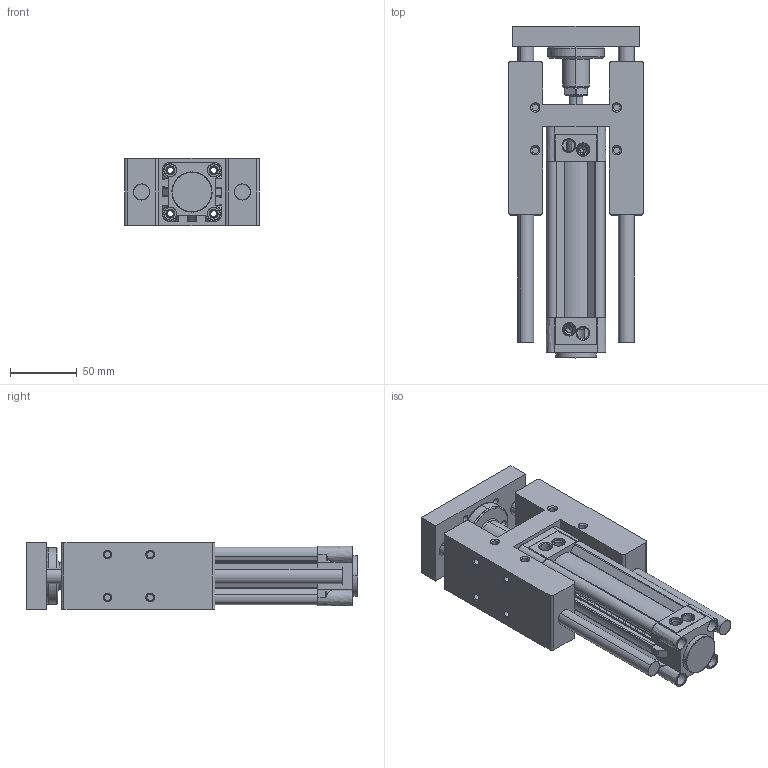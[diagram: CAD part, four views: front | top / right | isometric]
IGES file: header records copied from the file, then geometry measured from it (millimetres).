
Start section: SolidWorks IGES file using analytic representation for surfaces
Global section: file name: D:\ARICA 3D 禽Z軲LER\3D IGES\DNC-H\KDNT\32\KDNT32X75H-YATAK.IGS,1; native system: 5HSolidWorks 2013; preprocessor: SolidWorks 2013; author: user; date: 160517.123440; units: millimetre
Bounding box: 101 x 248.4 x 50.5 mm (x, y, z)
Surface area: 191495.3 mm2 (no closed solid volume)
Topology: 0 solids, 0 shells, 936 faces, 14154 edges, 14124 vertices
Faces by surface type: revolution 556, bspline 380
